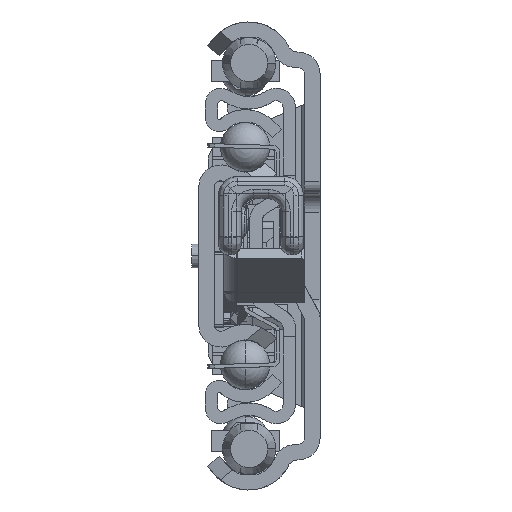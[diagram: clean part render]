
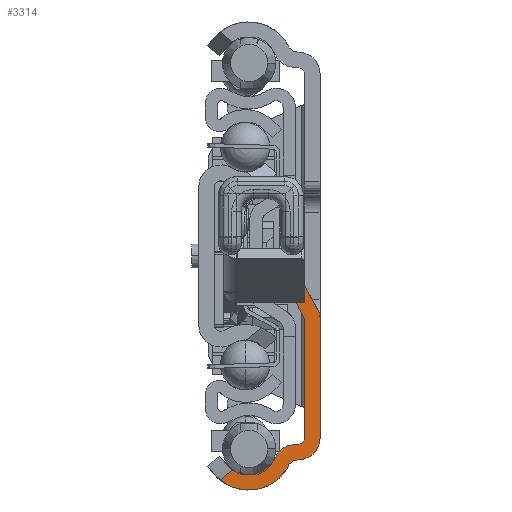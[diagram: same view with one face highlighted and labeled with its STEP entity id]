
A CAD part, left-side view. The second image highlights one B-rep face of the part: STEP entity #3314.
In plain terms, the highlighted planar face has unit normal (-1, 0, 0).
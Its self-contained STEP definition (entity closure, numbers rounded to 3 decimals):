
#125=DIRECTION('',(0.,0.,-1.));
#126=VECTOR('',#125,19.293);
#127=CARTESIAN_POINT('',(0.,2.5,-10.));
#128=LINE('',#127,#126);
#937=DIRECTION('',(0.,-0.769,0.639));
#938=VECTOR('',#937,2.575);
#939=CARTESIAN_POINT('',(0.,16.079,
-36.021));
#940=LINE('',#939,#938);
#941=CARTESIAN_POINT('',(0.,11.5,-30.4));
#942=DIRECTION('',(-1.,0.,0.));
#943=DIRECTION('',(0.,0.547,-0.837));
#944=AXIS2_PLACEMENT_3D('',#941,#942,#943);
#946=CARTESIAN_POINT('',(0.,4.008,-33.854));
#947=DIRECTION('',(1.,0.,0.));
#948=DIRECTION('',(0.,0.908,0.419));
#949=AXIS2_PLACEMENT_3D('',#946,#947,#948);
#951=CARTESIAN_POINT('',(0.,3.5,-29.293));
#952=DIRECTION('',(-1.,0.,0.));
#953=DIRECTION('',(0.,-0.087,-0.996));
#954=AXIS2_PLACEMENT_3D('',#951,#952,#953);
#956=DIRECTION('',(0.,0.477,0.879));
#957=VECTOR('',#956,6.873);
#958=CARTESIAN_POINT('',(0.,2.5,-10.));
#959=LINE('',#958,#957);
#960=CARTESIAN_POINT('',(0.,0.5,-1.099));
#961=DIRECTION('',(1.,0.,0.));
#962=DIRECTION('',(0.,0.879,-0.477));
#963=AXIS2_PLACEMENT_3D('',#960,#961,#962);
#965=DIRECTION('',(0.,-0.477,-0.879));
#966=VECTOR('',#965,6.495);
#967=CARTESIAN_POINT('',(0.,3.397,-3.04));
#968=LINE('',#967,#966);
#969=CARTESIAN_POINT('',(0.,2.5,-9.942));
#970=DIRECTION('',(1.,0.,0.));
#971=DIRECTION('',(0.,-0.879,0.477));
#972=AXIS2_PLACEMENT_3D('',#969,#970,#971);
#974=DIRECTION('',(0.,0.,-1.));
#975=VECTOR('',#974,19.351);
#976=CARTESIAN_POINT('',(0.,0.,-9.942));
#977=LINE('',#976,#975);
#978=CARTESIAN_POINT('',(0.,3.5,-29.293));
#979=DIRECTION('',(1.,0.,0.));
#980=DIRECTION('',(0.,-1.,0.));
#981=AXIS2_PLACEMENT_3D('',#978,#979,#980);
#983=CARTESIAN_POINT('',(0.,4.097,-32.858));
#984=CARTESIAN_POINT('',(0.,4.217,-32.869));
#985=CARTESIAN_POINT('',(0.,4.442,-32.931));
#986=CARTESIAN_POINT('',(0.,4.734,-33.138));
#987=CARTESIAN_POINT('',(0.,4.866,-33.326));
#988=CARTESIAN_POINT('',(0.,4.916,-33.436));
#990=CARTESIAN_POINT('',(0.,11.5,-30.4));
#991=DIRECTION('',(1.,0.,0.));
#992=DIRECTION('',(0.,-0.908,-0.419));
#993=AXIS2_PLACEMENT_3D('',#990,#991,#992);
#1003=DIRECTION('',(0.,0.996,-0.087));
#1004=VECTOR('',#1003,0.904);
#1005=CARTESIAN_POINT('',(0.,3.413,-30.289));
#1006=LINE('',#1005,#1004);
#1090=DIRECTION('',(0.,1.,0.));
#1091=VECTOR('',#1090,2.78);
#1092=CARTESIAN_POINT('',(0.,3.397,-3.04));
#1093=LINE('',#1092,#1091);
#1220=DIRECTION('',(0.,-0.996,0.087));
#1221=VECTOR('',#1220,0.905);
#1222=CARTESIAN_POINT('',(0.,4.097,-32.858));
#1223=LINE('',#1222,#1221);
#1823=CARTESIAN_POINT('',(0.,16.079,
-36.021));
#1824=CARTESIAN_POINT('',(0.,14.098,
-34.377));
#1825=VERTEX_POINT('',#1823);
#1826=VERTEX_POINT('',#1824);
#1827=CARTESIAN_POINT('',(0.,7.186,-32.389));
#1828=VERTEX_POINT('',#1827);
#1829=CARTESIAN_POINT('',(0.,4.313,-30.368));
#1830=VERTEX_POINT('',#1829);
#1831=CARTESIAN_POINT('',(0.,3.413,-30.289));
#1832=VERTEX_POINT('',#1831);
#1833=CARTESIAN_POINT('',(0.,2.5,-29.293));
#1834=VERTEX_POINT('',#1833);
#1835=CARTESIAN_POINT('',(0.,2.5,-10.));
#1836=VERTEX_POINT('',#1835);
#1837=CARTESIAN_POINT('',(0.,5.775,-3.958));
#1838=VERTEX_POINT('',#1837);
#1839=CARTESIAN_POINT('',(0.,6.177,-3.04));
#1840=VERTEX_POINT('',#1839);
#1841=CARTESIAN_POINT('',(0.,3.397,-3.04));
#1842=VERTEX_POINT('',#1841);
#1843=CARTESIAN_POINT('',(0.,0.302,-8.751));
#1844=VERTEX_POINT('',#1843);
#1845=CARTESIAN_POINT('',(0.,0.,-9.942));
#1846=VERTEX_POINT('',#1845);
#1847=CARTESIAN_POINT('',(0.,0.,-29.293));
#1848=VERTEX_POINT('',#1847);
#1849=CARTESIAN_POINT('',(0.,3.195,-32.78));
#1850=VERTEX_POINT('',#1849);
#1851=CARTESIAN_POINT('',(0.,4.097,-32.858));
#1852=VERTEX_POINT('',#1851);
#1853=VERTEX_POINT('',#988);
#3280=CARTESIAN_POINT('',(0.,0.,0.));
#3281=DIRECTION('',(1.,0.,0.));
#3282=DIRECTION('',(0.,-1.,0.));
#3283=AXIS2_PLACEMENT_3D('',#3280,#3281,#3282);
#3284=PLANE('',#3283);
#3285=ORIENTED_EDGE('',*,*,#3250,.T.);
#3286=ORIENTED_EDGE('',*,*,#3231,.T.);
#3288=ORIENTED_EDGE('',*,*,#3287,.T.);
#3290=ORIENTED_EDGE('',*,*,#3289,.F.);
#3292=ORIENTED_EDGE('',*,*,#3291,.T.);
#3293=ORIENTED_EDGE('',*,*,#2455,.F.);
#3295=ORIENTED_EDGE('',*,*,#3294,.T.);
#3297=ORIENTED_EDGE('',*,*,#3296,.T.);
#3299=ORIENTED_EDGE('',*,*,#3298,.F.);
#3301=ORIENTED_EDGE('',*,*,#3300,.T.);
#3303=ORIENTED_EDGE('',*,*,#3302,.T.);
#3304=ORIENTED_EDGE('',*,*,#2905,.T.);
#3306=ORIENTED_EDGE('',*,*,#3305,.T.);
#3308=ORIENTED_EDGE('',*,*,#3307,.F.);
#3310=ORIENTED_EDGE('',*,*,#3309,.T.);
#3311=ORIENTED_EDGE('',*,*,#3261,.T.);
#3312=EDGE_LOOP('',(#3285,#3286,#3288,#3290,#3292,#3293,#3295,#3297,#3299,#3301,
#3303,#3304,#3306,#3308,#3310,#3311));
#3313=FACE_OUTER_BOUND('',#3312,.F.);
#945=CIRCLE('',#944,4.75);
#950=CIRCLE('',#949,3.5);
#955=CIRCLE('',#954,1.);
#964=CIRCLE('',#963,6.);
#973=CIRCLE('',#972,2.5);
#982=CIRCLE('',#981,3.5);
#989=B_SPLINE_CURVE_WITH_KNOTS('',3,(#983,#984,#985,#986,#987,#988),
.UNSPECIFIED.,.F.,.F.,(4,1,1,4),(0.,0.333,0.667,1.),
.UNSPECIFIED.);
#994=CIRCLE('',#993,7.25);
#2455=EDGE_CURVE('',#1836,#1834,#128,.T.);
#2905=EDGE_CURVE('',#1846,#1848,#977,.T.);
#3231=EDGE_CURVE('',#1826,#1828,#945,.T.);
#3250=EDGE_CURVE('',#1825,#1826,#940,.T.);
#3261=EDGE_CURVE('',#1853,#1825,#994,.T.);
#3287=EDGE_CURVE('',#1828,#1830,#950,.T.);
#3289=EDGE_CURVE('',#1832,#1830,#1006,.T.);
#3291=EDGE_CURVE('',#1832,#1834,#955,.T.);
#3294=EDGE_CURVE('',#1836,#1838,#959,.T.);
#3296=EDGE_CURVE('',#1838,#1840,#964,.T.);
#3298=EDGE_CURVE('',#1842,#1840,#1093,.T.);
#3300=EDGE_CURVE('',#1842,#1844,#968,.T.);
#3302=EDGE_CURVE('',#1844,#1846,#973,.T.);
#3305=EDGE_CURVE('',#1848,#1850,#982,.T.);
#3307=EDGE_CURVE('',#1852,#1850,#1223,.T.);
#3309=EDGE_CURVE('',#1852,#1853,#989,.T.);
#3314=ADVANCED_FACE('',(#3313),#3284,.F.);
